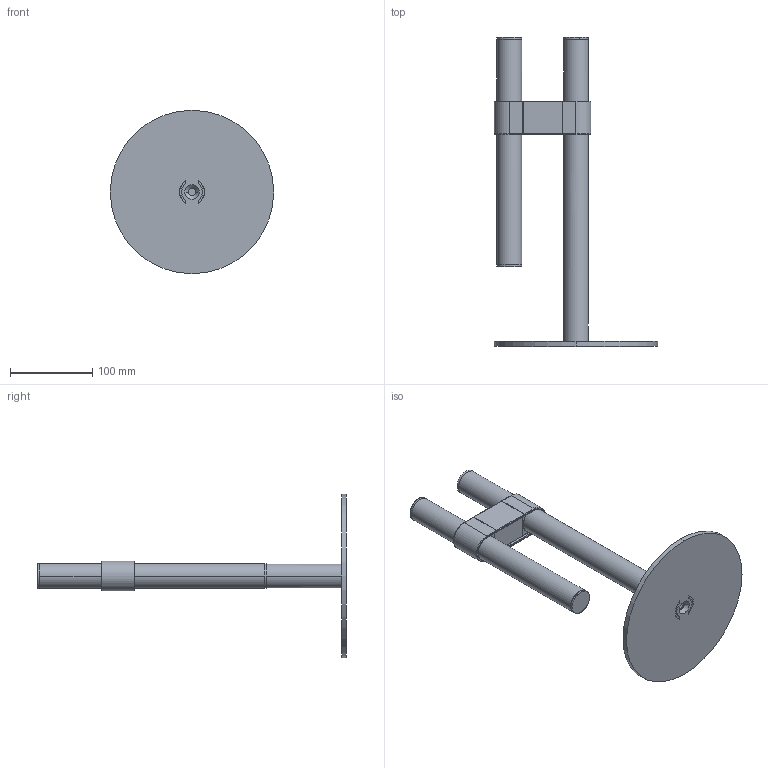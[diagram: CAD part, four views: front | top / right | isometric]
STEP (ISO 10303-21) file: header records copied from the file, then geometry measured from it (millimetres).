
FILE_DESCRIPTION (( 'STEP AP214' ), '1' );
FILE_NAME ('LTPARALELAXXXXX.STEP', '2023-08-29T07:26:05', ( '' ), ( '' ), 'SwSTEP 2.0', 'SolidWorks 2023', '' );
FILE_SCHEMA (( 'AUTOMOTIVE_DESIGN' ));
Length unit declared in the file: millimetre
Products named in the file (10): WSVBPAR027325XX-00; WSCM2D0050-0100-00; WSCM2C0156-0100-00_1; LTPARALELAXXXXX; WSCP2E0032-1400-00_1; WSCM2C0157-0100-00_1; WSCP2E0041-1400-01_1; WSCP2E0038-1400-01_1; WSCP2E0034-1400-00_1; WSCP2E0036-1400-01_1
Assembly tree (9 placements, depth 2):
  LTPARALELAXXXXX
    WSVBPAR027325XX-00
    WSCP2E0041-1400-01_1
    WSCP2E0038-1400-01_1
    WSCP2E0036-1400-01_1
    WSCP2E0032-1400-00_1
    WSCM2D0050-0100-00
    WSCM2C0156-0100-00_1
    WSCP2E0034-1400-00_1
    WSCM2C0157-0100-00_1
Bounding box: 198 x 374.5 x 198 mm (x, y, z)
Volume: 375495.5 mm3; surface area: 222386.2 mm2
Topology: 9 solids, 9 shells, 4132 faces, 9535 edges, 5236 vertices
Faces by surface type: bspline 1793, cylinder 1728, plane 584, cone 27
Entity records: 146209 total; most frequent: CARTESIAN_POINT 62826, ORIENTED_EDGE 18660, DIRECTION 16206, EDGE_CURVE 9330, AXIS2_PLACEMENT_3D 6503, VERTEX_POINT 5236, EDGE_LOOP 4204, CIRCLE 4152
